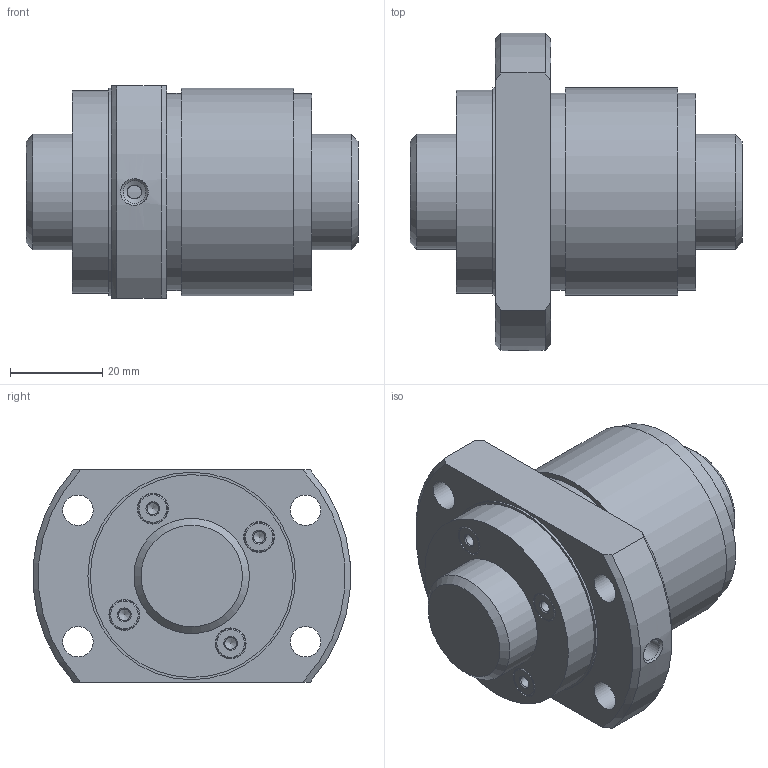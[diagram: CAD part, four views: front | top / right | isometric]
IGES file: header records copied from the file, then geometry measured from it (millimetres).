
Start section: Data from Parasolid IGES Translator 26.0.171, Copyright(c) 2006 Siemens PLM Software. All Rights Reserved.
Global section: file name: WGF2550-1G1+72LC3_0_13_0_0.igs; native system: By Siemens PLM Incorporated; preprocessor: XPlus GENERIC/IGES 26.0.171; author: Noname; organization: Noname; date: 20250116.062622; units: millimetre
Bounding box: 72 x 68.89 x 46 mm (x, y, z)
Surface area: 25765.4 mm2 (no closed solid volume)
Topology: 0 solids, 0 shells, 65 faces, 262 edges, 207 vertices
Faces by surface type: revolution 46, extrusion 19
